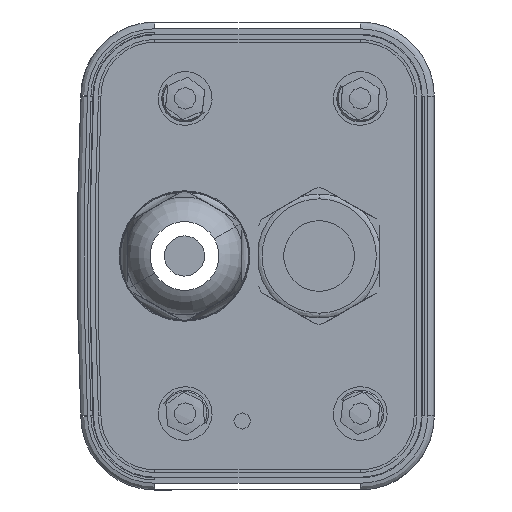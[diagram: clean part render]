
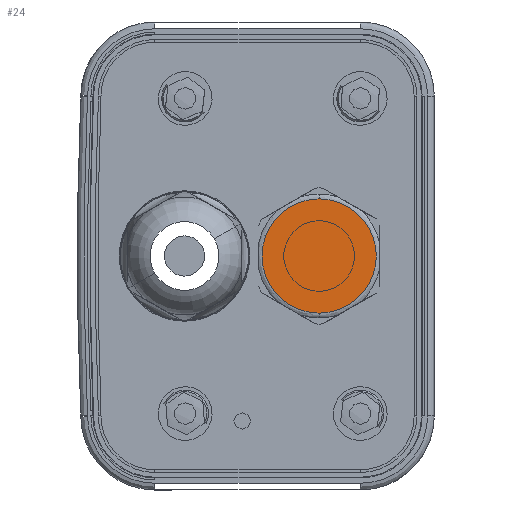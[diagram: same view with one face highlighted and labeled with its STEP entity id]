
A CAD part, left-side view. The second image highlights one B-rep face of the part: STEP entity #24.
In plain terms, the highlighted planar face has unit normal (-1, 0, 0).
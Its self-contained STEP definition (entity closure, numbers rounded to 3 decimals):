
#24 = ADVANCED_FACE ( 'NONE', ( #6194 ), #1640, .T. ) ;
#304 = EDGE_CURVE ( 'NONE', #2123, #2328, #7476, .T. ) ;
#462 = DIRECTION ( 'NONE',  ( 0., 0., -1. ) ) ;
#1096 = CIRCLE ( 'NONE', #9881, 8.486 ) ;
#1296 = ORIENTED_EDGE ( 'NONE', *, *, #6891, .T. ) ;
#1372 = CARTESIAN_POINT ( 'NONE',  ( -1328.1, 14.1, 0. ) ) ;
#1640 = PLANE ( 'NONE',  #4411 ) ;
#2093 = DIRECTION ( 'NONE',  ( -1., 0., 0. ) ) ;
#2123 = VERTEX_POINT ( 'NONE', #10077 ) ;
#2311 = AXIS2_PLACEMENT_3D ( 'NONE', #8279, #4492, #2752 ) ;
#2328 = VERTEX_POINT ( 'NONE', #9109 ) ;
#2752 = DIRECTION ( 'NONE',  ( 0., 0., -1. ) ) ;
#3103 = DIRECTION ( 'NONE',  ( 0., 0., -1. ) ) ;
#4411 = AXIS2_PLACEMENT_3D ( 'NONE', #6985, #5308, #462 ) ;
#4492 = DIRECTION ( 'NONE',  ( -1., 0., 0. ) ) ;
#5308 = DIRECTION ( 'NONE',  ( -1., 0., 0. ) ) ;
#5763 = ORIENTED_EDGE ( 'NONE', *, *, #304, .T. ) ;
#6194 = FACE_OUTER_BOUND ( 'NONE', #11348, .T. ) ;
#6891 = EDGE_CURVE ( 'NONE', #2328, #2123, #1096, .T. ) ;
#6985 = CARTESIAN_POINT ( 'NONE',  ( -1328.1, 24.2, 0. ) ) ;
#7476 = CIRCLE ( 'NONE', #2311, 8.486 ) ;
#8279 = CARTESIAN_POINT ( 'NONE',  ( -1328.1, 14.1, 0. ) ) ;
#9109 = CARTESIAN_POINT ( 'NONE',  ( -1328.1, 14.1, -8.486 ) ) ;
#9881 = AXIS2_PLACEMENT_3D ( 'NONE', #1372, #2093, #3103 ) ;
#10077 = CARTESIAN_POINT ( 'NONE',  ( -1328.1, 14.1, 8.486 ) ) ;
#11348 = EDGE_LOOP ( 'NONE', ( #1296, #5763 ) ) ;
